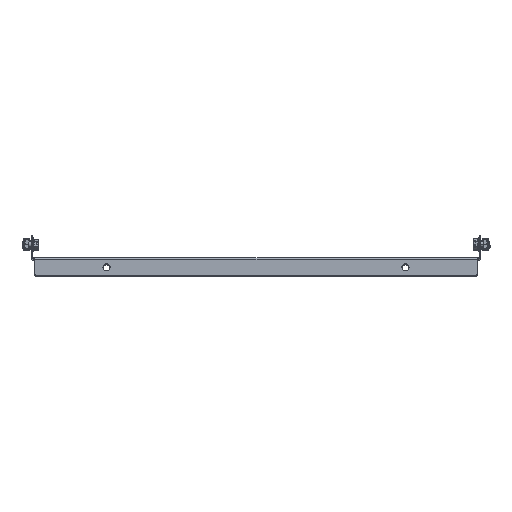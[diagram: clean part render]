
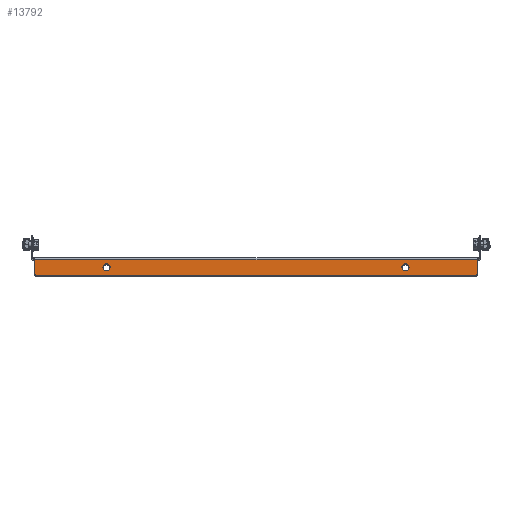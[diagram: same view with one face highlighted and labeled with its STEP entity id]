
A CAD part, top view. The second image highlights one B-rep face of the part: STEP entity #13792.
In plain terms, the highlighted planar face has unit normal (0, 0, 1).
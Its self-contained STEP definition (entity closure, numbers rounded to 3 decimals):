
#332 = CIRCLE ( 'NONE', #423, 4. ) ;
#423 = AXIS2_PLACEMENT_3D ( 'NONE', #22369, #2080, #1925 ) ;
#1263 = EDGE_CURVE ( 'NONE', #22743, #22704, #5539, .T. ) ;
#1344 = ORIENTED_EDGE ( 'NONE', *, *, #19390, .T. ) ;
#1518 = DIRECTION ( 'NONE',  ( 0., 1., 0. ) ) ;
#1700 = EDGE_CURVE ( 'NONE', #15901, #11762, #11022, .T. ) ;
#1715 = VECTOR ( 'NONE', #20424, 1000. ) ;
#1862 = AXIS2_PLACEMENT_3D ( 'NONE', #3777, #20407, #5647 ) ;
#1925 = DIRECTION ( 'NONE',  ( 0., 1., 0. ) ) ;
#2080 = DIRECTION ( 'NONE',  ( 0., 0., -1. ) ) ;
#2111 = EDGE_CURVE ( 'NONE', #22743, #15901, #20124, .T. ) ;
#2215 = VERTEX_POINT ( 'NONE', #4408 ) ;
#2266 = ORIENTED_EDGE ( 'NONE', *, *, #11996, .T. ) ;
#2272 = CARTESIAN_POINT ( 'NONE',  ( 246., -17., 372. ) ) ;
#2534 = CARTESIAN_POINT ( 'NONE',  ( 166.008, -14.75, 372. ) ) ;
#2777 = FACE_OUTER_BOUND ( 'NONE', #6660, .T. ) ;
#2910 = CARTESIAN_POINT ( 'NONE',  ( -243., -20., 372. ) ) ;
#2915 = CIRCLE ( 'NONE', #15541, 3. ) ;
#3669 = EDGE_CURVE ( 'NONE', #20578, #17831, #332, .T. ) ;
#3777 = CARTESIAN_POINT ( 'NONE',  ( 166.008, -10.75, 372. ) ) ;
#3848 = DIRECTION ( 'NONE',  ( 0., -1., 0. ) ) ;
#4335 = VECTOR ( 'NONE', #3848, 1000. ) ;
#4408 = CARTESIAN_POINT ( 'NONE',  ( 166.008, -6.75, 372. ) ) ;
#4441 = DIRECTION ( 'NONE',  ( 0., 0., -1. ) ) ;
#4505 = VERTEX_POINT ( 'NONE', #2534 ) ;
#4646 = DIRECTION ( 'NONE',  ( 0., 1., 0. ) ) ;
#4891 = ORIENTED_EDGE ( 'NONE', *, *, #1263, .F. ) ;
#5417 = CARTESIAN_POINT ( 'NONE',  ( 246., -20., 372. ) ) ;
#5501 = LINE ( 'NONE', #5417, #1715 ) ;
#5539 = LINE ( 'NONE', #20155, #16039 ) ;
#5647 = DIRECTION ( 'NONE',  ( 0., 1., 0. ) ) ;
#5710 = AXIS2_PLACEMENT_3D ( 'NONE', #7380, #9130, #10849 ) ;
#6548 = FACE_BOUND ( 'NONE', #7788, .T. ) ;
#6614 = AXIS2_PLACEMENT_3D ( 'NONE', #7100, #12571, #20055 ) ;
#6660 = EDGE_LOOP ( 'NONE', ( #2266, #11581, #8532, #4891, #15423, #8359 ) ) ;
#6816 = DIRECTION ( 'NONE',  ( 0., 0., -1. ) ) ;
#7100 = CARTESIAN_POINT ( 'NONE',  ( -243., -17., 372. ) ) ;
#7380 = CARTESIAN_POINT ( 'NONE',  ( -166., -10.75, 372. ) ) ;
#7788 = EDGE_LOOP ( 'NONE', ( #11547, #10710 ) ) ;
#7923 = CARTESIAN_POINT ( 'NONE',  ( 246., -2.25, 372. ) ) ;
#8189 = CARTESIAN_POINT ( 'NONE',  ( 166.008, -10.75, 372. ) ) ;
#8359 = ORIENTED_EDGE ( 'NONE', *, *, #1700, .T. ) ;
#8532 = ORIENTED_EDGE ( 'NONE', *, *, #19834, .T. ) ;
#8594 = FACE_BOUND ( 'NONE', #8633, .T. ) ;
#8633 = EDGE_LOOP ( 'NONE', ( #1344, #17235 ) ) ;
#9130 = DIRECTION ( 'NONE',  ( 0., 0., -1. ) ) ;
#10002 = CARTESIAN_POINT ( 'NONE',  ( 243., -20., 372. ) ) ;
#10475 = CARTESIAN_POINT ( 'NONE',  ( -166., -14.75, 372. ) ) ;
#10710 = ORIENTED_EDGE ( 'NONE', *, *, #15726, .T. ) ;
#10849 = DIRECTION ( 'NONE',  ( 0., 1., 0. ) ) ;
#10938 = EDGE_CURVE ( 'NONE', #2215, #4505, #17483, .T. ) ;
#11022 = CIRCLE ( 'NONE', #6614, 3. ) ;
#11088 = CARTESIAN_POINT ( 'NONE',  ( -246., -20., 372. ) ) ;
#11547 = ORIENTED_EDGE ( 'NONE', *, *, #10938, .T. ) ;
#11581 = ORIENTED_EDGE ( 'NONE', *, *, #17274, .T. ) ;
#11762 = VERTEX_POINT ( 'NONE', #2910 ) ;
#11840 = CIRCLE ( 'NONE', #5710, 4. ) ;
#11996 = EDGE_CURVE ( 'NONE', #11762, #14650, #5501, .T. ) ;
#12571 = DIRECTION ( 'NONE',  ( 0., 0., 1. ) ) ;
#12687 = PLANE ( 'NONE',  #20321 ) ;
#12880 = DIRECTION ( 'NONE',  ( 0., 1., 0. ) ) ;
#13163 = CARTESIAN_POINT ( 'NONE',  ( -166., -6.75, 372. ) ) ;
#13792 = ADVANCED_FACE ( 'NONE', ( #8594, #6548, #2777 ), #12687, .F. ) ;
#14153 = LINE ( 'NONE', #17628, #22299 ) ;
#14332 = CARTESIAN_POINT ( 'NONE',  ( -246., -17., 372. ) ) ;
#14650 = VERTEX_POINT ( 'NONE', #10002 ) ;
#15423 = ORIENTED_EDGE ( 'NONE', *, *, #2111, .T. ) ;
#15541 = AXIS2_PLACEMENT_3D ( 'NONE', #21760, #23591, #12880 ) ;
#15726 = EDGE_CURVE ( 'NONE', #4505, #2215, #23934, .T. ) ;
#15901 = VERTEX_POINT ( 'NONE', #14332 ) ;
#16039 = VECTOR ( 'NONE', #18438, 1000. ) ;
#17235 = ORIENTED_EDGE ( 'NONE', *, *, #3669, .T. ) ;
#17274 = EDGE_CURVE ( 'NONE', #14650, #17367, #2915, .T. ) ;
#17367 = VERTEX_POINT ( 'NONE', #2272 ) ;
#17483 = CIRCLE ( 'NONE', #1862, 4. ) ;
#17628 = CARTESIAN_POINT ( 'NONE',  ( 246., -20., 372. ) ) ;
#17831 = VERTEX_POINT ( 'NONE', #13163 ) ;
#18438 = DIRECTION ( 'NONE',  ( 1., 0., 0. ) ) ;
#19390 = EDGE_CURVE ( 'NONE', #17831, #20578, #11840, .T. ) ;
#19834 = EDGE_CURVE ( 'NONE', #17367, #22704, #14153, .T. ) ;
#20055 = DIRECTION ( 'NONE',  ( 0., 1., 0. ) ) ;
#20097 = CARTESIAN_POINT ( 'NONE',  ( 0., 0., 372. ) ) ;
#20124 = LINE ( 'NONE', #11088, #4335 ) ;
#20155 = CARTESIAN_POINT ( 'NONE',  ( 0., -2.25, 372. ) ) ;
#20321 = AXIS2_PLACEMENT_3D ( 'NONE', #20097, #6816, #1518 ) ;
#20407 = DIRECTION ( 'NONE',  ( 0., 0., -1. ) ) ;
#20424 = DIRECTION ( 'NONE',  ( 1., 0., 0. ) ) ;
#20578 = VERTEX_POINT ( 'NONE', #10475 ) ;
#21760 = CARTESIAN_POINT ( 'NONE',  ( 243., -17., 372. ) ) ;
#22060 = AXIS2_PLACEMENT_3D ( 'NONE', #8189, #4441, #23171 ) ;
#22299 = VECTOR ( 'NONE', #4646, 1000. ) ;
#22369 = CARTESIAN_POINT ( 'NONE',  ( -166., -10.75, 372. ) ) ;
#22704 = VERTEX_POINT ( 'NONE', #7923 ) ;
#22743 = VERTEX_POINT ( 'NONE', #22979 ) ;
#22979 = CARTESIAN_POINT ( 'NONE',  ( -246., -2.25, 372. ) ) ;
#23171 = DIRECTION ( 'NONE',  ( 0., 1., 0. ) ) ;
#23591 = DIRECTION ( 'NONE',  ( 0., 0., 1. ) ) ;
#23934 = CIRCLE ( 'NONE', #22060, 4. ) ;
